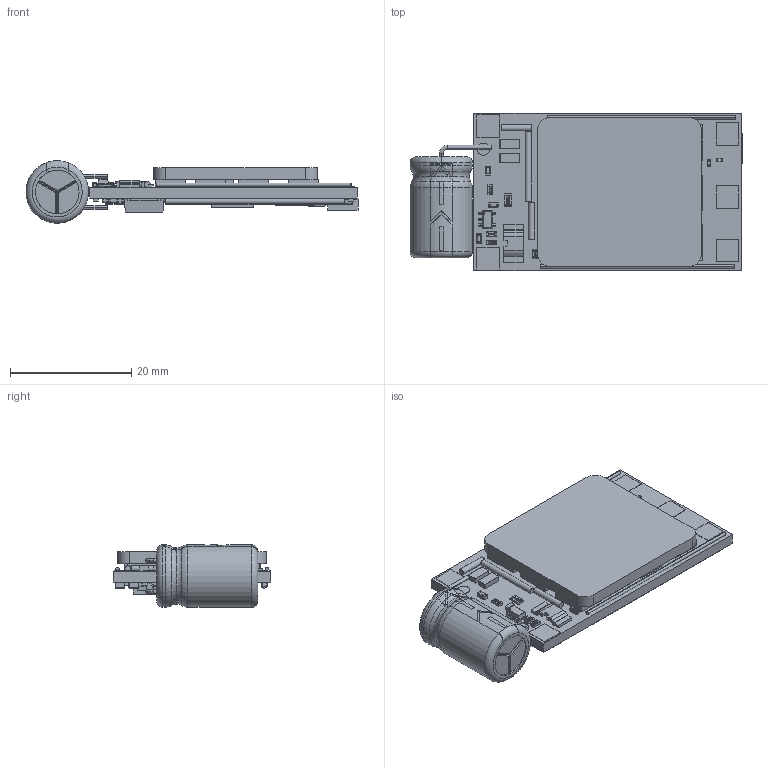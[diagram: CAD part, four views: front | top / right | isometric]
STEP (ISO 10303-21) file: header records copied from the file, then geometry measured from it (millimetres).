
FILE_DESCRIPTION (( 'STEP AP214' ), '1' );
FILE_NAME ('RD D pro ESC 40A.STEP', '2025-09-04T04:41:02', ( '' ), ( '' ), 'SwSTEP 2.0', 'SolidWorks 2022', '' );
FILE_SCHEMA (( 'AUTOMOTIVE_DESIGN' ));
Length unit declared in the file: millimetre
Products named in the file (1): RD D pro ESC 40A
Bounding box: 54.74 x 26.04 x 10.3 mm (x, y, z)
Surface area: 7021.6 mm2 (no closed solid volume)
Topology: 0 solids, 482 shells, 11465 faces, 30049 edges, 19487 vertices
Faces by surface type: plane 6281, bspline 3719, cylinder 1147, sphere 292, torus 26
Entity records: 487991 total; most frequent: CARTESIAN_POINT 100298, ORIENTED_EDGE 59716, DIRECTION 40086, EDGE_CURVE 29869, LINE 20078, VECTOR 20078, VERTEX_POINT 19487, UNCERTAINTY_MEASURE_WITH_UNIT 11948
